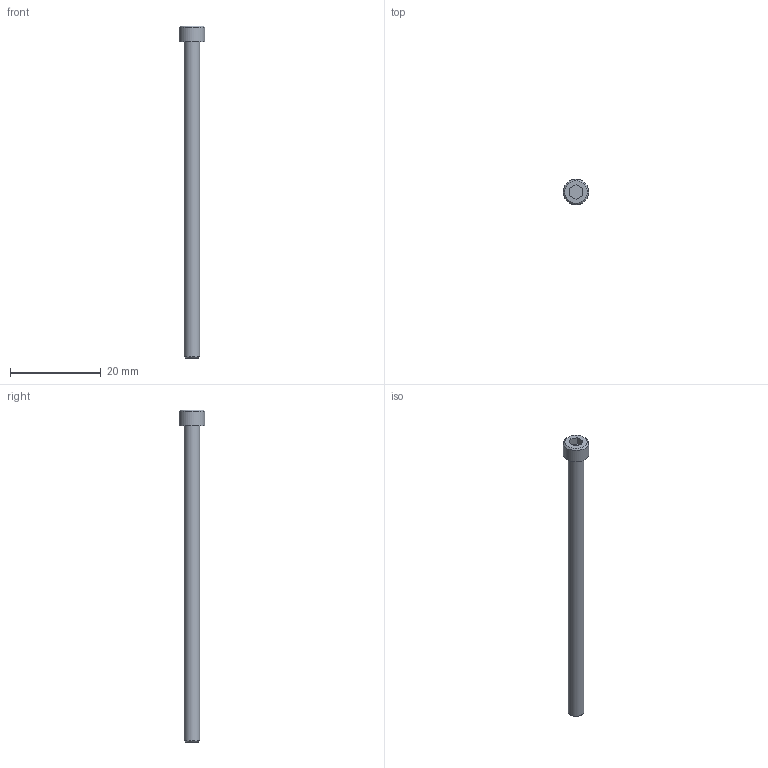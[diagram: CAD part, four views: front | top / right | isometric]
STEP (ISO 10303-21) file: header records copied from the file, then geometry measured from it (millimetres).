
FILE_DESCRIPTION((''),'2;1');
FILE_NAME('C:\Users\Stan\Desktop\import\SHCS 6-32 UNCx2.75.ipt.step','2011-08-18T17:44:52',(''),(''),'Autodesk Inventor 2012','Autodesk Inventor 2012','');
FILE_SCHEMA(('AUTOMOTIVE_DESIGN { 1 0 10303 214 1 1 1 1 }'));
Length unit declared in the file: inch
Products named in the file (1): SHCS 6-32 UNCx2.75
Bounding box: 5.64 x 5.64 x 73.3 mm (x, y, z)
Volume: 748 mm3; surface area: 890.1 mm2
Topology: 1 solids, 1 shells, 14 faces, 28 edges, 18 vertices
Faces by surface type: plane 10, cone 2, cylinder 2
Full cylindrical faces by diameter (mm): 3.505 x1, 5.639 x1
Entity records: 391 total; most frequent: DIRECTION 60, CARTESIAN_POINT 57, ORIENTED_EDGE 48, EDGE_CURVE 24, AXIS2_PLACEMENT_3D 21, EDGE_LOOP 20, VERTEX_POINT 18, VECTOR 18
